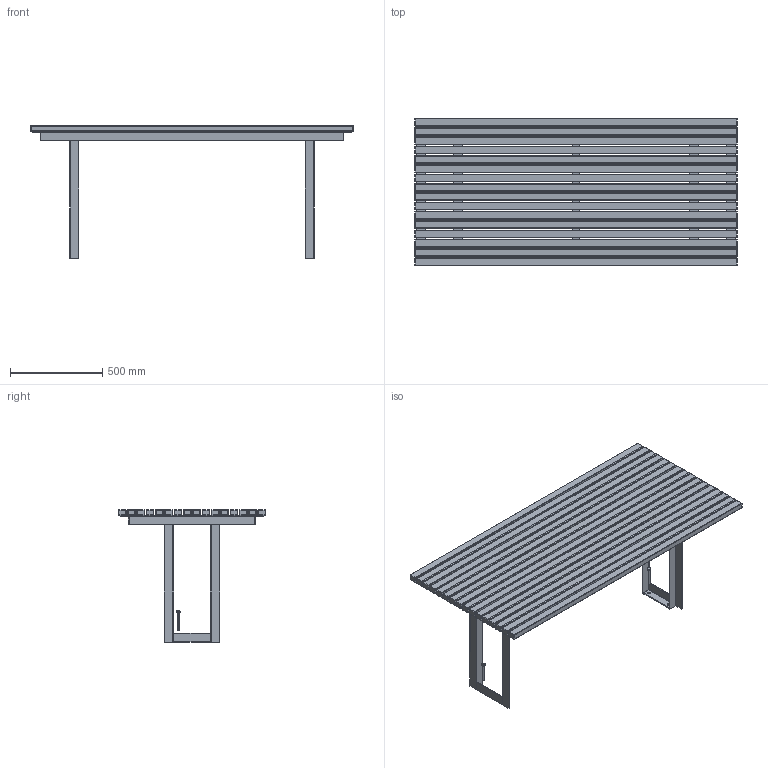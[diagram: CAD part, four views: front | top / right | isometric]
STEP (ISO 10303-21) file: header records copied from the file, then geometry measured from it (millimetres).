
FILE_DESCRIPTION(/* description */ (''),/* implementation_level */ '2;1');
FILE_NAME(/* name */ 'ENV03-A2_UAP_ENVIRON_Table_3D',/* time_stamp */ '2017-09-18T15:32:46-04:00',/* author */ (''),/* organization */ (''),/* preprocessor_version */ 'ST-DEVELOPER v15',/* originating_system */ '',/* authorisation */ '');
FILE_SCHEMA (('AUTOMOTIVE_DESIGN'));
Length unit declared in the file: millimetre
Products named in the file (1): Document
Bounding box: 1750 x 799.5 x 720 mm (x, y, z)
Volume: 39688930.5 mm3; surface area: 5942431.8 mm2
Topology: 28 solids, 36 shells, 864 faces, 2008 edges, 1081 vertices
Faces by surface type: bspline 618, plane 246
Entity records: 23216 total; most frequent: CARTESIAN_POINT 11854, ORIENTED_EDGE 3708, EDGE_CURVE 1878, VERTEX_POINT 1081, EDGE_LOOP 975, ADVANCED_FACE 864, FACE_OUTER_BOUND 864, B_SPLINE_CURVE_WITH_KNOTS 719
